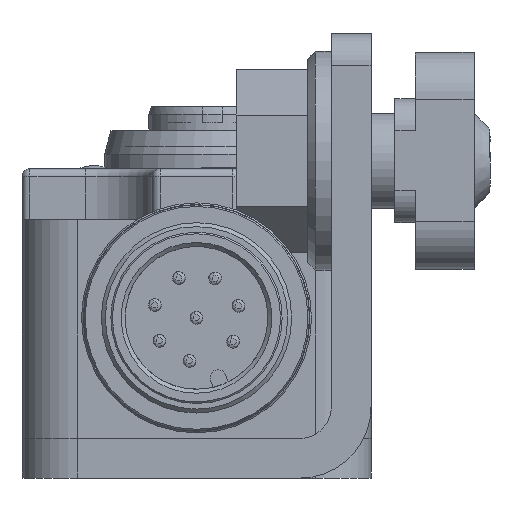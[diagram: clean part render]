
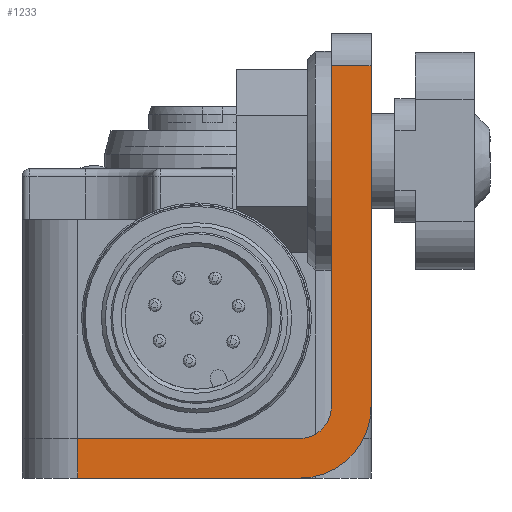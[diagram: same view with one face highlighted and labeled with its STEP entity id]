
A CAD part, front view. The second image highlights one B-rep face of the part: STEP entity #1233.
In plain terms, the highlighted planar face has unit normal (0, -1, 0).
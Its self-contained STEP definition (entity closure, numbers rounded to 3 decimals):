
#595=CARTESIAN_POINT('',(3.5,-117.5,2.5));
#596=VERTEX_POINT('',#595);
#604=CARTESIAN_POINT('',(17.5,-117.5,2.5));
#605=VERTEX_POINT('',#604);
#606=CARTESIAN_POINT('',(17.5,-117.5,2.5));
#607=DIRECTION('',(-1.0,0.0,0.0));
#608=VECTOR('',#607,14.);
#609=LINE('',#606,#608);
#610=EDGE_CURVE('',#605,#596,#609,.T.);
#766=CARTESIAN_POINT('',(3.5,-117.5,0.0));
#767=VERTEX_POINT('',#766);
#775=CARTESIAN_POINT('',(3.5,-117.5,0.0));
#776=DIRECTION('',(0.0,0.0,1.0));
#777=VECTOR('',#776,2.5);
#778=LINE('',#775,#777);
#779=EDGE_CURVE('',#767,#596,#778,.T.);
#1086=CARTESIAN_POINT('',(19.5,-117.5,4.5));
#1087=VERTEX_POINT('',#1086);
#1094=CARTESIAN_POINT('',(19.5,-117.5,26.));
#1095=VERTEX_POINT('',#1094);
#1096=CARTESIAN_POINT('',(19.5,-117.5,26.));
#1097=DIRECTION('',(0.0,0.0,-1.0));
#1098=VECTOR('',#1097,21.5);
#1099=LINE('',#1096,#1098);
#1100=EDGE_CURVE('',#1095,#1087,#1099,.T.);
#1172=CARTESIAN_POINT('',(22.,-117.5,26.));
#1173=VERTEX_POINT('',#1172);
#1183=CARTESIAN_POINT('',(19.5,-117.5,26.));
#1184=DIRECTION('',(1.0,0.0,0.0));
#1185=VECTOR('',#1184,2.5);
#1186=LINE('',#1183,#1185);
#1187=EDGE_CURVE('',#1095,#1173,#1186,.T.);
#1192=CARTESIAN_POINT('',(22.,-117.5,0.0));
#1193=DIRECTION('',(0.0,-1.0,0.0));
#1194=DIRECTION('',(0.0,0.0,-1.0));
#1195=AXIS2_PLACEMENT_3D('',#1192,#1193,#1194);
#1196=PLANE('',#1195);
#1197=ORIENTED_EDGE('',*,*,#779,.F.);
#1198=CARTESIAN_POINT('',(17.5,-117.5,0.0));
#1199=VERTEX_POINT('',#1198);
#1200=CARTESIAN_POINT('',(3.5,-117.5,0.0));
#1201=DIRECTION('',(1.0,0.0,0.0));
#1202=VECTOR('',#1201,14.);
#1203=LINE('',#1200,#1202);
#1204=EDGE_CURVE('',#767,#1199,#1203,.T.);
#1205=ORIENTED_EDGE('',*,*,#1204,.T.);
#1206=CARTESIAN_POINT('',(22.,-117.5,4.5));
#1207=VERTEX_POINT('',#1206);
#1208=CARTESIAN_POINT('',(17.5,-117.5,4.5));
#1209=DIRECTION('',(0.0,-1.0,0.0));
#1210=DIRECTION('',(0.0,0.0,-1.0));
#1211=AXIS2_PLACEMENT_3D('',#1208,#1209,#1210);
#1212=CIRCLE('',#1211,4.5);
#1213=EDGE_CURVE('',#1199,#1207,#1212,.T.);
#1214=ORIENTED_EDGE('',*,*,#1213,.T.);
#1215=CARTESIAN_POINT('',(22.,-117.5,4.5));
#1216=DIRECTION('',(0.0,0.0,1.0));
#1217=VECTOR('',#1216,21.5);
#1218=LINE('',#1215,#1217);
#1219=EDGE_CURVE('',#1207,#1173,#1218,.T.);
#1220=ORIENTED_EDGE('',*,*,#1219,.T.);
#1221=ORIENTED_EDGE('',*,*,#1187,.F.);
#1222=ORIENTED_EDGE('',*,*,#1100,.T.);
#1223=CARTESIAN_POINT('',(17.5,-117.5,4.5));
#1224=DIRECTION('',(0.0,1.0,0.0));
#1225=DIRECTION('',(1.0,0.0,0.0));
#1226=AXIS2_PLACEMENT_3D('',#1223,#1224,#1225);
#1227=CIRCLE('',#1226,2.);
#1228=EDGE_CURVE('',#1087,#605,#1227,.T.);
#1229=ORIENTED_EDGE('',*,*,#1228,.T.);
#1230=ORIENTED_EDGE('',*,*,#610,.T.);
#1231=EDGE_LOOP('',(#1197,#1205,#1214,#1220,#1221,#1222,#1229,#1230));
#1232=FACE_OUTER_BOUND('',#1231,.T.);
#1233=ADVANCED_FACE('',(#1232),#1196,.T.);
